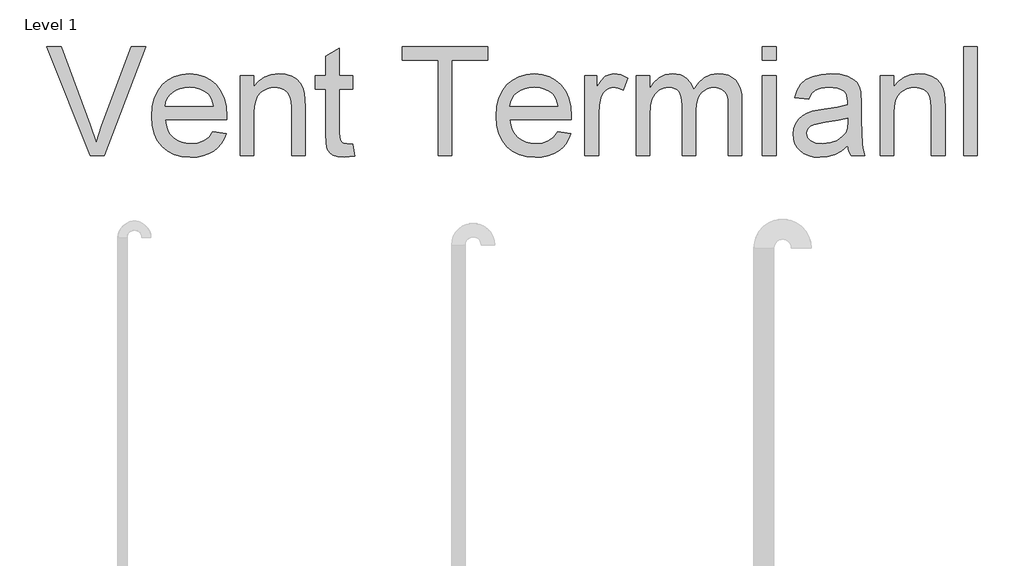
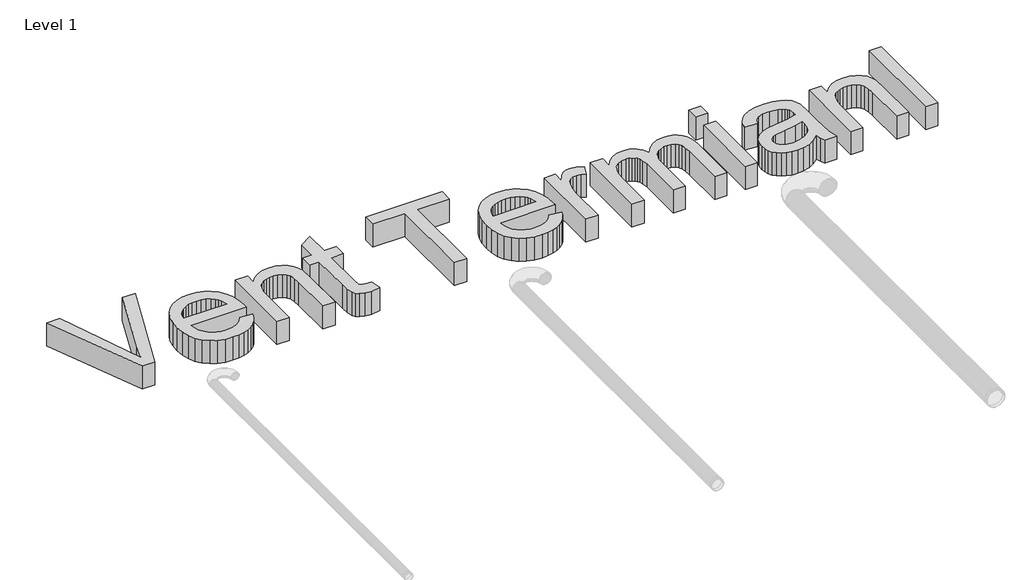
# One storey, part 29 of 29: 1 proxy.
"""IFC4 building model written with IfcOpenShell, lengths in millimetres."""

from ifc_helpers import new_model, si_unit, origin, origin_with_axes, place, context, project, spatial, polyline, outline, extrude, element, save

model = new_model("IFC4")

# Units and contexts
model_context = context("Model", 3, world=origin())
ifc_project = project(units=[si_unit("LENGTHUNIT", "METRE", prefix="MILLI")], contexts=[model_context])

# Site, building, storey
site = spatial("IfcSite", under=ifc_project)
building = spatial("IfcBuilding", under=site)
storey = spatial("IfcBuildingStorey", under=building, Name="Level 1", Elevation=0.0)

# Proxy
placement = place(None, origin())
element("IfcBuildingElementProxy", 1, Name="600mm Arial", ObjectType="600mm Arial", at=placement, inside=storey, context=model_context, shape_type="SweptSolid", body=[
    extrude(outline(polyline([(70844.7888315, 25775.1285806), (70604.9297706, 26377.8664415), (70685.5695039, 26377.8664415), (70846.1132066, 25943.6185344), (70878.633975, 25845.7619237), (70910.713285, 25943.6185344), (71071.6984461, 26377.8664415), (71152.3381794, 26377.8664415), (70922.6326616, 25775.1285806), (70844.7888315, 25775.1285806)])), origin_with_axes(), (0.0, 0.0, 1.0), 150.0),
    extrude(outline(polyline([(71522.868925, 25906.9774877), (71596.7396296, 25897.5597086), (71585.4134627, 25867.9727991), (71570.1233672, 25841.8991627), (71550.8693433, 25819.3387994), (71527.6513909, 25800.2917091), (71500.7086333, 25785.162562), (71470.2801938, 25774.3560284), (71436.3660723, 25767.8721082), (71398.966269, 25765.7108015), (71352.2176645, 25769.4402052), (71310.5642255, 25780.6284164), (71274.0059523, 25799.275435), (71242.5428446, 25825.3812611), (71217.2417604, 25858.2193277), (71199.1695574, 25897.0630679), (71188.3262356, 25941.9124816), (71184.711795, 25992.7675689), (71188.3630238, 26045.3471031), (71199.3167102, 26091.6910374), (71217.5728542, 26131.799372), (71243.1314558, 26165.6721067), (71274.51179, 26192.5826746), (71310.2331318, 26211.8045089), (71350.295481, 26223.3376094), (71394.6988378, 26227.1819763), (71437.6720534, 26223.3468065), (71476.5341877, 26211.8412971), (71511.2852406, 26192.6654481), (71541.9252123, 26165.8192595), (71566.9365895, 26132.0201012), (71584.8018589, 26091.985343), (71595.5210205, 26045.7149851), (71599.0940744, 25993.2090273), (71598.652616, 25972.9019412), (71260.0540276, 25972.9019412), (71264.4180278, 25942.8367851), (71273.0954443, 25916.5056313), (71286.0862773, 25893.9084798), (71303.3905266, 25875.0453305), (71324.0516992, 25860.1737008), (71347.1133018, 25849.5511082), (71372.5753344, 25843.1775526), (71400.437797, 25841.0530341), (71440.5369344, 25844.9893715), (71474.3085016, 25856.7983835), (71501.7524984, 25877.2158342), (71522.868925, 25906.9774877)]), holes=[polyline([(71260.0540276, 26048.2441738), (71523.7518418, 26048.2441738), (71513.5615105, 26088.0490057), (71504.796722, 26103.7023846), (71493.5855181, 26116.5230721), (71473.0393087, 26131.9741159), (71449.6604079, 26143.0105758), (71423.4488158, 26149.6324517), (71394.4045322, 26151.8397436), (71367.9124301, 26150.0785086), (71343.6184228, 26144.7948034), (71321.5225105, 26135.9886282), (71301.6246931, 26123.6599828), (71284.927449, 26108.3790844), (71272.4332567, 26090.7161501), (71264.1421163, 26070.6711799), (71260.0540276, 26048.2441738)])]), origin_with_axes(), (0.0, 0.0, 1.0), 150.0),
    extrude(outline(polyline([(71674.436307, 25775.1285806), (71674.436307, 26217.7641972), (71749.7785396, 26217.7641972), (71749.7785396, 26155.960022), (71775.9533435, 26187.119627), (71807.38886, 26209.3764877), (71844.0850891, 26222.7306041), (71886.0420306, 26227.1819763), (71923.179718, 26223.5951268), (71957.1904085, 26212.8345784), (71985.5541103, 26196.2431005), (72005.7508318, 26175.1634621), (72019.4544362, 26149.6508458), (72028.3387863, 26119.7604337), (72032.3119119, 26046.9197986), (72032.3119119, 25775.1285806), (71956.9696793, 25775.1285806), (71956.9696793, 26036.7662556), (71954.7991755, 26075.7249588), (71948.2876642, 26103.4264731), (71936.276317, 26123.2737067), (71917.6063058, 26138.6695682), (71893.675582, 26148.5471998), (71865.8820973, 26151.8397436), (71843.0044357, 26149.9911366), (71821.7546519, 26144.4453155), (71802.132746, 26135.2022804), (71784.1387179, 26122.2620312), (71769.1061399, 26104.15304), (71758.3685842, 26079.4037788), (71751.9260507, 26048.0142476), (71749.7785396, 26009.9844463), (71749.7785396, 25775.1285806), (71674.436307, 25775.1285806)])), origin_with_axes(), (0.0, 0.0, 1.0), 150.0),
    extrude(outline(polyline([(72296.009726, 25837.9628254), (72305.4275051, 25772.9212886), (72249.0679834, 25765.7108015), (72212.9051833, 25768.8377985), (72185.9394331, 25778.2187893), (72166.8831457, 25792.6765518), (72154.4487343, 25811.0338633), (72147.6061292, 25842.5613503), (72145.3252608, 25896.529639), (72145.3252608, 26142.4219646), (72088.8185863, 26142.4219646), (72088.8185863, 26217.7641972), (72145.3252608, 26217.7641972), (72145.3252608, 26325.3328926), (72220.6674934, 26369.6258848), (72220.6674934, 26217.7641972), (72296.009726, 26217.7641972), (72296.009726, 26142.4219646), (72220.6674934, 26142.4219646), (72220.6674934, 25898.736931), (72224.640619, 25859.8885923), (72237.5164888, 25846.1298057), (72248.3874018, 25842.322227), (72263.1946521, 25841.0530341), (72296.009726, 25837.9628254)])), origin_with_axes(), (0.0, 0.0, 1.0), 150.0),
    extrude(outline(polyline([(72766.8986799, 25775.1285806), (72766.8986799, 26302.5242089), (72569.1253192, 26302.5242089), (72569.1253192, 26377.8664415), (73040.0142731, 26377.8664415), (73040.0142731, 26302.5242089), (72842.2409125, 26302.5242089), (72842.2409125, 25775.1285806), (72766.8986799, 25775.1285806)])), origin_with_axes(), (0.0, 0.0, 1.0), 150.0),
    extrude(outline(polyline([(73425.2602984, 25906.9774877), (73499.1310031, 25897.5597086), (73487.8048361, 25867.9727991), (73472.5147407, 25841.8991627), (73453.2607168, 25819.3387994), (73430.0427644, 25800.2917091), (73403.1000067, 25785.162562), (73372.6715672, 25774.3560284), (73338.7574458, 25767.8721082), (73301.3576424, 25765.7108015), (73254.6090379, 25769.4402052), (73212.955599, 25780.6284164), (73176.3973257, 25799.275435), (73144.9342181, 25825.3812611), (73119.6331339, 25858.2193277), (73101.5609309, 25897.0630679), (73090.7176091, 25941.9124816), (73087.1031685, 25992.7675689), (73090.7543973, 26045.3471031), (73101.7080837, 26091.6910374), (73119.9642277, 26131.799372), (73145.5228293, 26165.6721067), (73176.9031635, 26192.5826746), (73212.6245052, 26211.8045089), (73252.6868545, 26223.3376094), (73297.0902113, 26227.1819763), (73340.0634269, 26223.3468065), (73378.9255611, 26211.8412971), (73413.6766141, 26192.6654481), (73444.3165858, 26165.8192595), (73469.3279629, 26132.0201012), (73487.1932323, 26091.985343), (73497.9123939, 26045.7149851), (73501.4854478, 25993.2090273), (73501.0439894, 25972.9019412), (73162.4454011, 25972.9019412), (73166.8094012, 25942.8367851), (73175.4868178, 25916.5056313), (73188.4776508, 25893.9084798), (73205.7819001, 25875.0453305), (73226.4430727, 25860.1737008), (73249.5046752, 25849.5511082), (73274.9667078, 25843.1775526), (73302.8291704, 25841.0530341), (73342.9283079, 25844.9893715), (73376.6998751, 25856.7983835), (73404.1438719, 25877.2158342), (73425.2602984, 25906.9774877)]), holes=[polyline([(73162.4454011, 26048.2441738), (73426.1432152, 26048.2441738), (73415.9528839, 26088.0490057), (73407.1880954, 26103.7023846), (73395.9768916, 26116.5230721), (73375.4306822, 26131.9741159), (73352.0517814, 26143.0105758), (73325.8401892, 26149.6324517), (73296.7959057, 26151.8397436), (73270.3038035, 26150.0785086), (73246.0097963, 26144.7948034), (73223.9138839, 26135.9886282), (73204.0160665, 26123.6599828), (73187.3188225, 26108.3790844), (73174.8246302, 26090.7161501), (73166.5334897, 26070.6711799), (73162.4454011, 26048.2441738)])]), origin_with_axes(), (0.0, 0.0, 1.0), 150.0),
    extrude(outline(polyline([(73576.8276804, 25775.1285806), (73576.8276804, 26217.7641972), (73642.752134, 26217.7641972), (73642.752134, 26152.281202), (73667.1059221, 26190.2466239), (73689.5467238, 26212.6138493), (73712.0611019, 26223.5399445), (73736.6356191, 26227.1819763), (73774.1595826, 26221.3694407), (73812.2721573, 26203.9318342), (73787.1090289, 26136.3886999), (73760.6215252, 26147.9769827), (73734.1340216, 26151.8397436), (73711.6380376, 26148.1241355), (73691.5332865, 26136.977311), (73675.2912964, 26119.2453989), (73664.3835953, 26095.7745276), (73655.2233336, 26053.6888273), (73652.169913, 26007.7771543), (73652.169913, 25775.1285806), (73576.8276804, 25775.1285806)])), origin_with_axes(), (0.0, 0.0, 1.0), 150.0),
    extrude(outline(polyline([(73859.3610527, 25775.1285806), (73859.3610527, 26217.7641972), (73934.7032853, 26217.7641972), (73934.7032853, 26144.9235621), (73957.3648162, 26178.3824296), (73986.5010703, 26204.5940218), (74021.118766, 26221.5349876), (74060.2246221, 26227.1819763), (74102.1263813, 26221.424623), (74119.9594611, 26214.2279315), (74135.7140075, 26204.1525634), (74160.8035596, 26176.5062314), (74177.2110966, 26139.6260614), (74204.6734875, 26177.9317742), (74235.9986394, 26205.2929975), (74271.1865522, 26221.7097316), (74310.237226, 26227.1819763), (74340.3989511, 26224.9057064), (74366.8726592, 26218.0768969), (74389.6583503, 26206.6955477), (74408.7560243, 26190.7616587), (74423.8529817, 26170.0912891), (74434.6365227, 26144.5004978), (74441.1066473, 26113.9892849), (74443.2633555, 26078.5576502), (74443.2633555, 25775.1285806), (74367.9211229, 25775.1285806), (74367.9211229, 26046.1840346), (74366.1736834, 26083.7631804), (74360.931365, 26109.0918558), (74351.1089157, 26126.4374919), (74335.6210837, 26140.0675198), (74315.7002736, 26148.8966877), (74292.5788903, 26151.8397436), (74271.227939, 26149.9543484), (74251.7623829, 26144.2981627), (74234.182222, 26134.8711866), (74218.4874564, 26121.67342), (74205.5793969, 26104.3185869), (74196.3593544, 26082.4204112), (74190.8273289, 26055.9788928), (74188.9833204, 26024.9940317), (74188.9833204, 25775.1285806), (74113.6410878, 25775.1285806), (74113.6410878, 26054.5717441), (74109.2816862, 26097.1724792), (74103.8324341, 26113.8927158), (74096.2034812, 26127.559532), (74086.0913249, 26138.1821246), (74073.1924624, 26145.7696907), (74057.5068939, 26150.3222304), (74039.0346192, 26151.8397436), (74010.0087298, 26147.7930417), (73983.2637087, 26135.6529359), (73961.190789, 26115.7137317), (73946.1812036, 26088.2697349), (73937.5727649, 26050.1939484), (73934.7032853, 25998.3593753), (73934.7032853, 25775.1285806), (73859.3610527, 25775.1285806)])), origin_with_axes(), (0.0, 0.0, 1.0), 150.0),
    extrude(outline(polyline([(74556.2767044, 26302.5242089), (74556.2767044, 26377.8664415), (74631.618937, 26377.8664415), (74631.618937, 26302.5242089), (74556.2767044, 26302.5242089)])), origin_with_axes(), (0.0, 0.0, 1.0), 150.0),
    extrude(outline(polyline([(74556.2767044, 25775.1285806), (74556.2767044, 26217.7641972), (74631.618937, 26217.7641972), (74631.618937, 25775.1285806), (74556.2767044, 25775.1285806)])), origin_with_axes(), (0.0, 0.0, 1.0), 150.0),
    extrude(outline(polyline([(75027.1656582, 25831.635255), (74991.168405, 25800.7699557), (74954.104294, 25780.5732341), (74915.1271966, 25769.4264097), (74873.3909842, 25765.7108015), (74839.8447448, 25767.9456846), (74810.4279808, 25774.650334), (74785.1406921, 25785.8247496), (74763.9828789, 25801.4689314), (74747.2764378, 25820.5895981), (74735.3432655, 25842.1934683), (74728.1833622, 25866.2805419), (74725.7967278, 25892.850819), (74729.4019713, 25924.0840004), (74740.217702, 25952.4477023), (74756.9011505, 25976.7279139), (74778.1095475, 25995.7106249), (74803.0335527, 26010.0580227), (74830.8638256, 26020.432295), (74896.0525151, 26031.7630604), (74973.0870049, 26043.6824371), (75026.7241998, 26057.6619529), (75027.1656582, 26074.4373719), (75021.9785221, 26108.0617862), (75015.4946019, 26120.5145918), (75006.4171137, 26130.0611295), (74990.7269466, 26139.5892732), (74971.6154769, 26146.3950901), (74923.12863, 26151.8397436), (74878.2470266, 26148.216106), (74846.9034806, 26137.345193), (74825.5295367, 26117.240442), (74810.5567395, 26085.9152901), (74735.2145068, 26095.3330692), (74748.2927118, 26136.5358526), (74767.8088516, 26168.9094682), (74795.5839423, 26193.6679265), (74833.4389996, 26212.0252381), (74879.7369487, 26223.3927917), (74932.8407147, 26227.1819763), (74983.7739769, 26223.8342501), (75024.1490259, 26213.7910716), (75054.591261, 26198.6895157), (75075.7260816, 26180.1666573), (75089.7423856, 26157.2660031), (75098.8290709, 26129.0310599), (75102.5078908, 26063.1066064), (75102.5078908, 25969.370274), (75106.3338636, 25838.4778602), (75111.9992463, 25806.1226387), (75121.343449, 25775.1285806), (75046.0012164, 25775.1285806), (75033.9346869, 25801.3217786), (75027.1656582, 25831.635255)]), holes=[polyline([(75027.1656582, 25982.3197203), (74976.5450957, 25969.7749442), (74905.617447, 25959.216731), (74840.7966395, 25947.0030487), (74823.92925, 25938.6521274), (74811.4396562, 25927.137421), (74803.7141343, 25913.3418462), (74801.1389604, 25898.1483198), (74806.7491608, 25875.7443063), (74823.5797621, 25857.3869947), (74851.2628822, 25845.1365243), (74889.4306392, 25841.0530341), (74929.8976587, 25845.5595886), (74965.6557886, 25859.0792519), (74994.6448898, 25879.0000619), (75014.8048232, 25902.7100565), (75023.7443557, 25927.137421), (75026.7241998, 25960.9825646), (75027.1656582, 25982.3197203)])]), origin_with_axes(), (0.0, 0.0, 1.0), 150.0),
    extrude(outline(polyline([(75206.1034607, 25775.1285806), (75206.1034607, 26217.7641972), (75281.4456933, 26217.7641972), (75281.4456933, 26155.960022), (75307.6204972, 26187.119627), (75339.0560137, 26209.3764877), (75375.7522428, 26222.7306041), (75417.7091843, 26227.1819763), (75454.8468717, 26223.5951268), (75488.8575622, 26212.8345784), (75517.221264, 26196.2431005), (75537.4179855, 26175.1634621), (75551.1215899, 26149.6508458), (75560.00594, 26119.7604337), (75563.9790656, 26046.9197986), (75563.9790656, 25775.1285806), (75488.636833, 25775.1285806), (75488.636833, 26036.7662556), (75486.4663292, 26075.7249588), (75479.9548179, 26103.4264731), (75467.9434707, 26123.2737067), (75449.2734595, 26138.6695682), (75425.3427357, 26148.5471998), (75397.549251, 26151.8397436), (75374.6715894, 26149.9911366), (75353.4218056, 26144.4453155), (75333.7998997, 26135.2022804), (75315.8058716, 26122.2620312), (75300.7732936, 26104.15304), (75290.0357379, 26079.4037788), (75283.5932044, 26048.0142476), (75281.4456933, 26009.9844463), (75281.4456933, 25775.1285806), (75206.1034607, 25775.1285806)])), origin_with_axes(), (0.0, 0.0, 1.0), 150.0),
    extrude(outline(polyline([(75667.5746354, 25775.1285806), (75667.5746354, 26377.8664415), (75742.916868, 26377.8664415), (75742.916868, 25775.1285806), (75667.5746354, 25775.1285806)])), origin_with_axes(), (0.0, 0.0, 1.0), 150.0),
])

save(model, "model.ifc")
